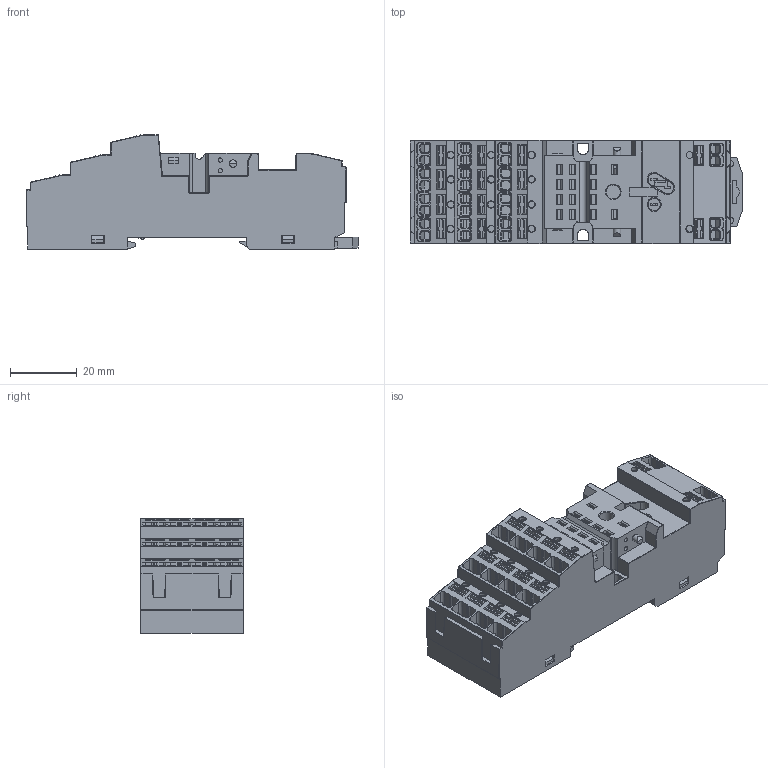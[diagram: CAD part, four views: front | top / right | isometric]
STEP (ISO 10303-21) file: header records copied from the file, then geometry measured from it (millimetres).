
FILE_DESCRIPTION(/* description */ (''),/* implementation_level */ '2;1');
FILE_NAME(/* name */ '18f-4z-c11.stp',/* time_stamp */ '2023-03-20T13:09:54+08:00',/* author */ (''),/* organization */ (''),/* preprocessor_version */ 'ST-DEVELOPER v11',/* originating_system */ 'SIEMENS UGS NX 6.0',/* authorisation */ '');
FILE_SCHEMA (('CONFIG_CONTROL_DESIGN'));
Products named in the file (1): 18f-4z-c11
Bounding box: 99.4 x 30.8 x 34.2 mm (x, y, z)
Volume: 26770.1 mm3; surface area: 51705 mm2
Topology: 19 solids, 19 shells, 2979 faces, 8368 edges, 5420 vertices
Faces by surface type: plane 2256, cylinder 532, cone 135, torus 31, sphere 22, bspline 3
Full cylindrical faces by diameter (mm): 1.3 x4, 1.8 x2, 2 x14, 2.1 x2, 2.2 x2, 2.3 x2, 2.5 x2, 3 x1, 4.2 x1
Entity records: 95679 total; most frequent: CARTESIAN_POINT 17935, ORIENTED_EDGE 16564, DIRECTION 15474, EDGE_CURVE 8282, LINE 7000, VECTOR 7000, VERTEX_POINT 5402, AXIS2_PLACEMENT_3D 4237
